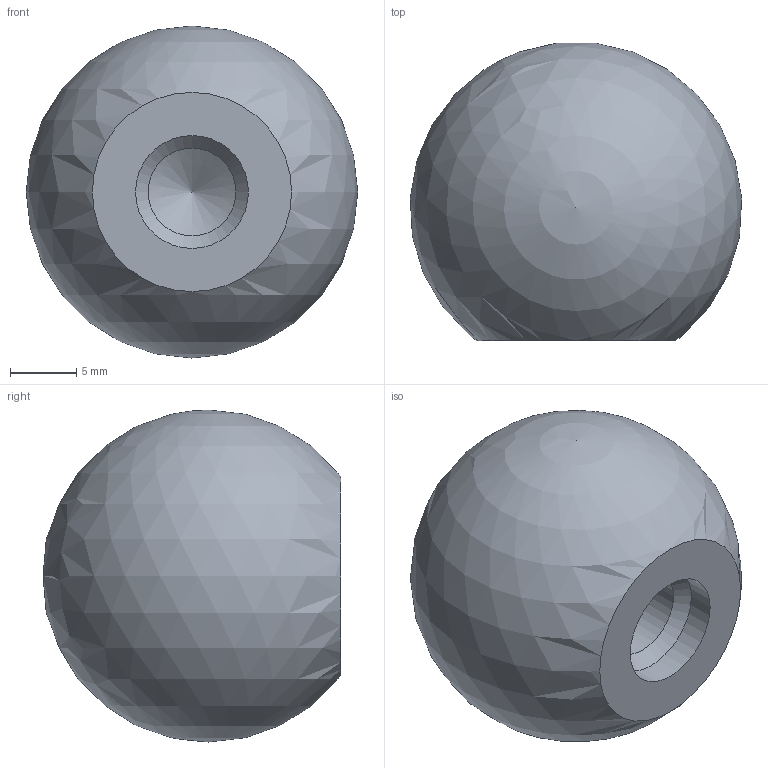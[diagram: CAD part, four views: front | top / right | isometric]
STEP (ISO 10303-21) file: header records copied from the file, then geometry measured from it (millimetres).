
FILE_DESCRIPTION (( 'STEP AP214' ), '1' );
FILE_NAME ('319-KT-25-M8-C.step', '2019-04-24T08:50:01', ( 'user' ), ( '' ), 'SwSTEP 2.0', 'SolidWorks 2019', '' );
FILE_SCHEMA (( 'AUTOMOTIVE_DESIGN' ));
Length unit declared in the file: millimetre
Products named in the file (1): 319-KT-25-M8-C
Bounding box: 24.96 x 22.42 x 25 mm (x, y, z)
Volume: 7463.7 mm3; surface area: 2199.9 mm2
Topology: 1 solids, 1 shells, 6 faces, 15 edges, 10 vertices
Faces by surface type: cone 2, cylinder 2, plane 1, sphere 1
Full cylindrical faces by diameter (mm): 6.6 x1, 8.5 x1
Entity records: 159 total; most frequent: DIRECTION 24, CARTESIAN_POINT 17, AXIS2_PLACEMENT_3D 12, ORIENTED_EDGE 10, EDGE_LOOP 10, FACE_OUTER_BOUND 8, ADVANCED_FACE 6, EDGE_CURVE 5
